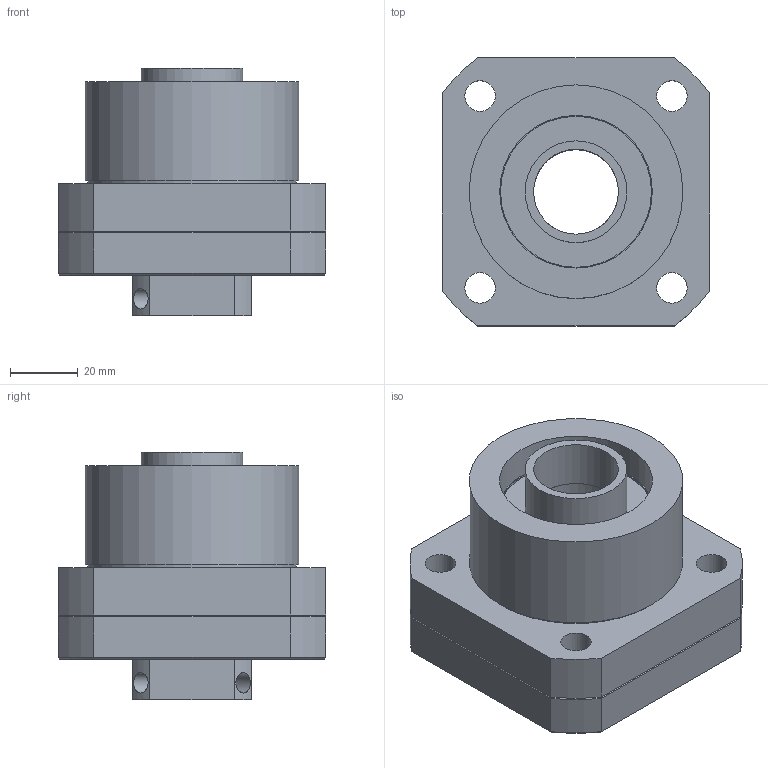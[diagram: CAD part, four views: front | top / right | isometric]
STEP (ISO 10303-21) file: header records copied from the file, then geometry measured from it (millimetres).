
FILE_DESCRIPTION(/* description */ (''),/* implementation_level */ '2;1');
FILE_NAME(/* name */ 'FK25.stp',/* time_stamp */ '2019-07-30T20:09:01+08:00',/* author */ (''),/* organization */ (''),/* preprocessor_version */ 'ST-DEVELOPER v14',/* originating_system */ 'SIEMENS PLM Software NX 8.0',/* authorisation */ '');
FILE_SCHEMA (('AUTOMOTIVE_DESIGN { 1 0 10303 214 3 1 1 1 }'));
Length unit declared in the file: millimetre
Products named in the file (6): M25; GT-30-25-14; 7205; FK25-LID; FK25-A; FK25
Assembly tree (7 placements, depth 2):
  FK25
    FK25-A
    FK25-LID
    7205  x2
    GT-30-25-14  x2
    M25
Bounding box: 79 x 79 x 73 mm (x, y, z)
Volume: 191901.3 mm3; surface area: 70781.8 mm2
Topology: 7 solids, 7 shells, 112 faces, 247 edges, 165 vertices
Faces by surface type: cylinder 53, plane 49, cone 8, torus 2
Full cylindrical faces by diameter (mm): 6 x2, 8 x4, 9 x8, 14 x4, 15 x4, 25 x5, 30 x2, 33 x1, 44.5 x1, 45 x2, 48 x1, 52 x4, 53.6 x1, 61.4 x1, 63 x1
Entity records: 3077 total; most frequent: CARTESIAN_POINT 707, DIRECTION 487, ORIENTED_EDGE 358, AXIS2_PLACEMENT_3D 216, EDGE_LOOP 197, EDGE_CURVE 179, FACE_BOUND 156, VERTEX_POINT 140
